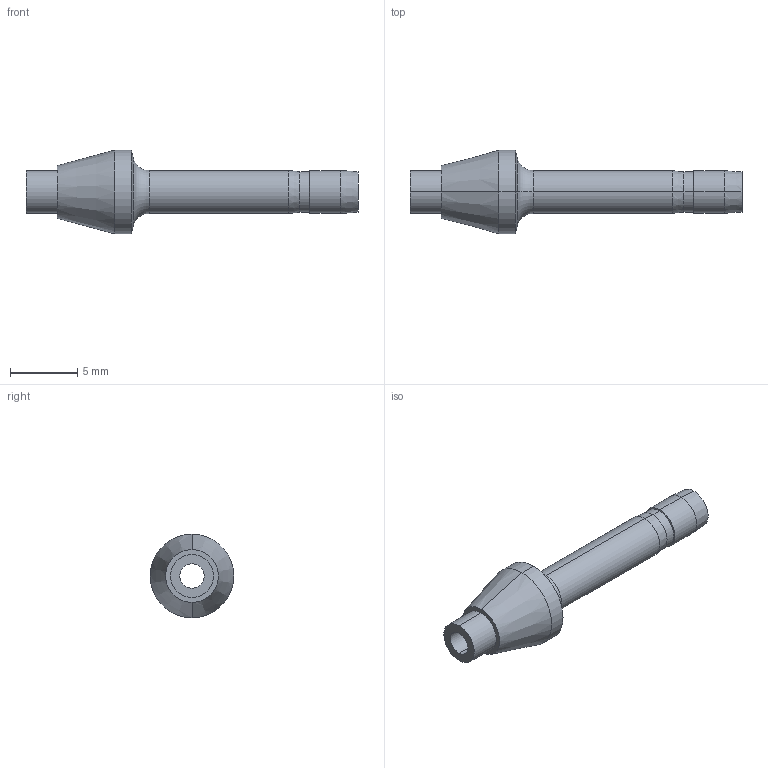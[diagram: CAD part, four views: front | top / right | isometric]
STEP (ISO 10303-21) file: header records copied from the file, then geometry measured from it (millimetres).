
FILE_DESCRIPTION (( 'STEP AP203' ), '1' );
FILE_NAME ('DPC02-02 SS.STEP', '2009-09-08T08:33:19', ( ' ' ), ( '' ), 'SwSTEP 2.0', 'SolidWorks 2008', '' );
FILE_SCHEMA (( 'CONFIG_CONTROL_DESIGN' ));
Length unit declared in the file: millimetre
Products named in the file (1): DPC02-02 SS
Bounding box: 24.6 x 6.2 x 6.2 mm (x, y, z)
Volume: 217.2 mm3; surface area: 454.4 mm2
Topology: 1 solids, 1 shells, 27 faces, 54 edges, 30 vertices
Faces by surface type: cylinder 12, cone 10, plane 3, torus 2
Entity records: 777 total; most frequent: DIRECTION 142, CARTESIAN_POINT 112, ORIENTED_EDGE 108, AXIS2_PLACEMENT_3D 60, EDGE_CURVE 54, CIRCLE 32, EDGE_LOOP 30, VERTEX_POINT 30
